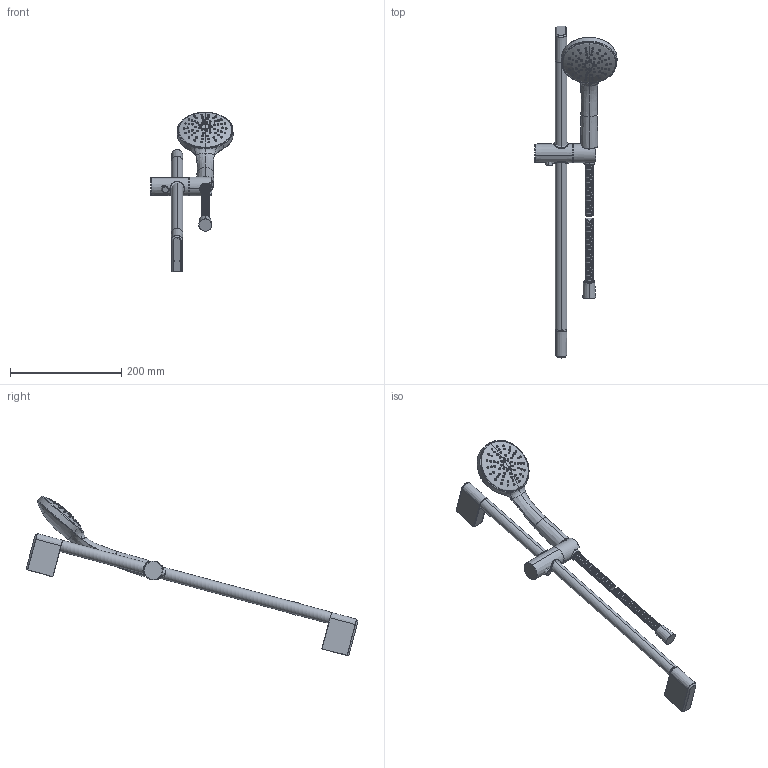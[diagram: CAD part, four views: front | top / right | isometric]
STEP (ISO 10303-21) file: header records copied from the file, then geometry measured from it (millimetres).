
FILE_DESCRIPTION((''),'2;1');
FILE_NAME('76513--','2026-09-24T11:26:03',('simi1'),(''),'CREO PARAMETRIC BY PTC INC, 2022244','CREO PARAMETRIC BY PTC INC, 2022244','');
FILE_SCHEMA(('CONFIG_CONTROL_DESIGN'));
Length unit declared in the file: millimetre
Products named in the file (1): 76513--
Bounding box: 147.34 x 596.1 x 286.83 mm (x, y, z)
Surface area: 163694.2 mm2 (no closed solid volume)
Topology: 0 solids, 97 shells, 846 faces, 2708 edges, 1901 vertices
Faces by surface type: cylinder 218, torus 180, cone 169, plane 160, bspline 101, revolution 8, sphere 8, extrusion 2
Entity records: 55400 total; most frequent: CARTESIAN_POINT 33239, ORIENTED_EDGE 4525, DIRECTION 4325, EDGE_CURVE 2700, VERTEX_POINT 1901, AXIS2_PLACEMENT_3D 1730, CIRCLE 995, B_SPLINE_CURVE_WITH_KNOTS 860
